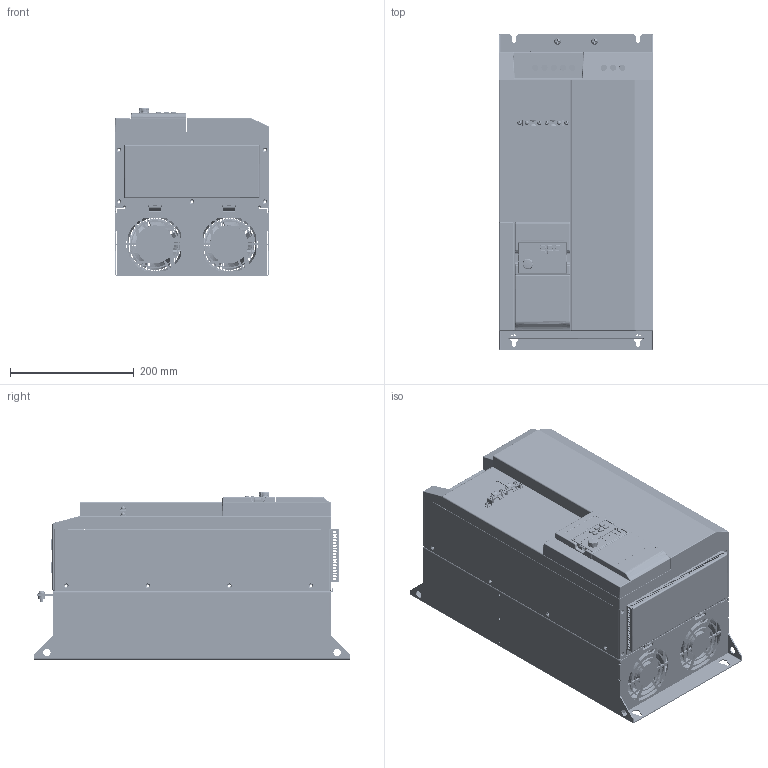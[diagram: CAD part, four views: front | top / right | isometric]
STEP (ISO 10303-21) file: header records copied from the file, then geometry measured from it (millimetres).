
FILE_DESCRIPTION((''),'2;1');
FILE_NAME('VFC5610-30K0-3P4-MNA-XX-NNNNN-N','2023-03-27T16:17:29',('ZUX1XI'),(''),'CREO PARAMETRIC BY PTC INC, 2021072','CREO PARAMETRIC BY PTC INC, 2021072','');
FILE_SCHEMA(('AUTOMOTIVE_DESIGN { 1 0 10303 214 1 1 1 1 }'));
Products named in the file (63): VFC5610_37KW_PEDESTAL_1_1_1_1; VFC5610_37KW_PEDESTAL_1_1_1; VFC5610_37KW_PEDESTAL_ASM_1_1_1; EFC5610_37KW_HOLDER_1_1_1_1; EFC5610_37KW_HOLDER_1_1_1; EFC5610_37KW_HEATSINK_1_1_1; VFC5610_37KW_LEFT_BOARD_1_2_1_1; VFC5610_37KW_LEFT_BOARD_1_1_1; VFC5610_37KW_RIGHT_BOARD_1_1_1_; VFC5610_37KW_RIGHT_BOARD_1_1_1; VFC5610_37KW_TOP_COVER_1_1_1_1; VFC5610_37KW_TOP_COVER_1_4_1_1; VFC5610_37KW_TOP_COVER_1_5_1_1; VFC5610_37KW_TOP_COVER_1_13_1_1; VFC5610_37KW_TOP_COVER_1_14_1_1; VFC5610_37KW_TOP_COVER_1_15_1_1; VFC5610_37KW_TOP_COVER_1_16_1_1; VFC5610_37KW_TOP_COVER_1_1_1; X610_37_IO_BASE_1_1_1; 01_DISPLAYCASE_1_1_1; LED_1_1_1; DISPLAY_PCB_ASM_1_1_1; BACK_CASE1_1_1_1; R911330333_FOLIE_1_1_1; BUUTTON_1_1_1; XUAN_NIU_1_1_1; 02-DISPLAY-CASE_ASM_1_1_1; PL_EFC5610_IOCAE_CONVER_1_1; CPU_CONNECTOR-14P_1_1; 548190519_1_1; 1155590000_1_1; LK_YCP06_1_1; 01-IOBACK_CASE_1_1; 01-IOCASE_1_1; VFC5610_37KW_TOP_COVER_ASM_1_1_; VFC5610_37KW_GND_1_1_1_1; VFC5610_37KW_GND_1_6_1_1; VFC5610_37KW_GND_1_7_1_1; VFC5610_37KW_GND_1_8_1_1; VFC5610_37KW_GND_1_9_1_1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
Assembly tree (70 placements, depth 8):
  VFC5610-30K0-3P4-MNA-XX-NNNNN-N
    VFC5610-30K0-3P4-MNA-XX-NNNNN_1
      XFC5610_30_37KW_H_HOUSING_1_1
        00_X610_37_ASM_2_1_1
          VFC5610_37KW_PEDESTAL_ASM_1_1_1
            VFC5610_37KW_PEDESTAL_1_1_1
              VFC5610_37KW_PEDESTAL_1_1_1_1
          EFC5610_37KW_HOLDER_1_1_1
            EFC5610_37KW_HOLDER_1_1_1_1
          EFC5610_37KW_HEATSINK_1_1_1
          VFC5610_37KW_LEFT_BOARD_1_1_1
            VFC5610_37KW_LEFT_BOARD_1_2_1_1
          VFC5610_37KW_RIGHT_BOARD_1_1_1
            VFC5610_37KW_RIGHT_BOARD_1_1_1_
          VFC5610_37KW_TOP_COVER_ASM_1_1_
            VFC5610_37KW_TOP_COVER_1_1_1
              VFC5610_37KW_TOP_COVER_1_1_1_1
              VFC5610_37KW_TOP_COVER_1_4_1_1
              VFC5610_37KW_TOP_COVER_1_5_1_1
              VFC5610_37KW_TOP_COVER_1_13_1_1
              VFC5610_37KW_TOP_COVER_1_14_1_1
              VFC5610_37KW_TOP_COVER_1_15_1_1
              VFC5610_37KW_TOP_COVER_1_16_1_1
            X610_37_IO_BASE_1_1_1
            02-DISPLAY-CASE_ASM_1_1_1
              01_DISPLAYCASE_1_1_1
              DISPLAY_PCB_ASM_1_1_1
                LED_1_1_1
              BACK_CASE1_1_1_1
              R911330333_FOLIE_1_1_1
              BUUTTON_1_1_1
              XUAN_NIU_1_1_1
            01-IOCASE_1_1
              PL_EFC5610_IOCAE_CONVER_1_1
              LK_YCP06_1_1
                CPU_CONNECTOR-14P_1_1
                548190519_1_1
                1155590000_1_1
              01-IOBACK_CASE_1_1
          VFC5610_37KW_GND_1_1_1
            VFC5610_37KW_GND_1_1_1_1
            VFC5610_37KW_GND_1_6_1_1
            VFC5610_37KW_GND_1_7_1_1
            VFC5610_37KW_GND_1_8_1_1
            VFC5610_37KW_GND_1_9_1_1
            VFC5610_37KW_GND_1_10_1_1
            VFC5610_37KW_GND_1_11_1_1
            VFC5610_37KW_GND_1_12_1_1
            VFC5610_37KW_GND_1_13_1_1
          EARTHING_CLIP_2_2_1_1
            EARTHING_CLIP_2_2_1_1_1
            EARTHING_CLIP_2_2_2_1_1
            EARTHING_CLIP_2_2_3_1_1
            EARTHING_CLIP_2_2_4_1_1
            EARTHING_CLIP_2_2_5_1_1
          EARTHING_CLIP1_2_1_1  x2
          EFC5610_37KW_TOP_1_1_1
          X610_37_FAN_COVER_1_1_1
          90X90X38_1_1_1  x2
          663-03-PART-2016-02-19_1_1_1
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Bounding box: 250 x 510 x 271.94 mm (x, y, z)
Volume: 4132731.5 mm3; surface area: 3813727.5 mm2
Topology: 54 solids, 60 shells, 10234 faces, 28669 edges, 18626 vertices
Faces by surface type: plane 6245, cylinder 2432, cone 486, bspline 479, torus 360, sphere 180, extrusion 52
Entity records: 430256 total; most frequent: CARTESIAN_POINT 83616, ORIENTED_EDGE 52506, DIRECTION 49910, PRESENTATION_STYLE_ASSIGNMENT 28256, STYLED_ITEM 26347, CURVE_STYLE 26301, EDGE_CURVE 26253, VECTOR 17860
